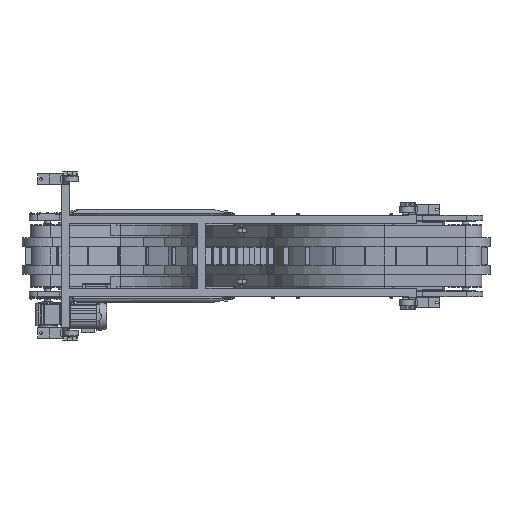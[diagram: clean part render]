
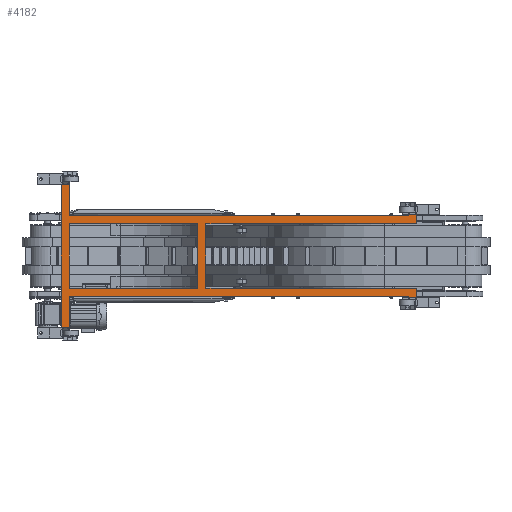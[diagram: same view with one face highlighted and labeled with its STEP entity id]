
A CAD part, front view. The second image highlights one B-rep face of the part: STEP entity #4182.
In plain terms, the highlighted planar face has unit normal (0, -1, 0).
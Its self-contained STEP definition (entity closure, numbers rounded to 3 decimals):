
#4182=ADVANCED_FACE('',(#28933,#28934),#28932,.F.);
#28932=PLANE('',#45991);
#28933=FACE_OUTER_BOUND('',#45992,.T.);
#28934=FACE_BOUND('',#45993,.T.);
#45988=CARTESIAN_POINT('',(1917.167,-2264.082,-410.));
#45989=DIRECTION('',(0.,1.,0.));
#45990=DIRECTION('',(-1.,0.,0.));
#45991=AXIS2_PLACEMENT_3D('',#45988,#45989,#45990);
#45992=EDGE_LOOP('',(#60305,#60306,#60307,#60308,#60309,#60310,#60311,#60312,#60313,#60314,#60315,#60316,#60317,#60318,#60319,#60320));
#45993=EDGE_LOOP('',(#60321,#60322,#60323,#60324));
#60305=ORIENTED_EDGE('',*,*,#68496,.T.);
#60306=ORIENTED_EDGE('',*,*,#68454,.T.);
#60307=ORIENTED_EDGE('',*,*,#68467,.F.);
#60308=ORIENTED_EDGE('',*,*,#68497,.F.);
#60309=ORIENTED_EDGE('',*,*,#68498,.F.);
#60310=ORIENTED_EDGE('',*,*,#68499,.T.);
#60311=ORIENTED_EDGE('',*,*,#68474,.T.);
#60312=ORIENTED_EDGE('',*,*,#68495,.F.);
#60313=ORIENTED_EDGE('',*,*,#68476,.F.);
#60314=ORIENTED_EDGE('',*,*,#68500,.T.);
#60315=ORIENTED_EDGE('',*,*,#68482,.T.);
#60316=ORIENTED_EDGE('',*,*,#68501,.F.);
#60317=ORIENTED_EDGE('',*,*,#68502,.F.);
#60318=ORIENTED_EDGE('',*,*,#68503,.F.);
#60319=ORIENTED_EDGE('',*,*,#68462,.T.);
#60320=ORIENTED_EDGE('',*,*,#68504,.F.);
#60321=ORIENTED_EDGE('',*,*,#68460,.F.);
#60322=ORIENTED_EDGE('',*,*,#68505,.T.);
#60323=ORIENTED_EDGE('',*,*,#68506,.F.);
#60324=ORIENTED_EDGE('',*,*,#68468,.F.);
#68454=EDGE_CURVE('',#109636,#109629,#109637,.T.);
#68460=EDGE_CURVE('',#109671,#109656,#109678,.T.);
#68462=EDGE_CURVE('',#109692,#109684,#109693,.T.);
#68467=EDGE_CURVE('',#109719,#109629,#109726,.T.);
#68468=EDGE_CURVE('',#109656,#109732,#109733,.T.);
#68474=EDGE_CURVE('',#109753,#109767,#109774,.T.);
#68476=EDGE_CURVE('',#109781,#109788,#109789,.T.);
#68482=EDGE_CURVE('',#109809,#109823,#109830,.T.);
#68495=EDGE_CURVE('',#109788,#109767,#109914,.T.);
#68496=EDGE_CURVE('',#109920,#109636,#109921,.T.);
#68497=EDGE_CURVE('',#109927,#109719,#109928,.T.);
#68498=EDGE_CURVE('',#109934,#109927,#109935,.T.);
#68499=EDGE_CURVE('',#109934,#109753,#109941,.T.);
#68500=EDGE_CURVE('',#109781,#109809,#109947,.T.);
#68501=EDGE_CURVE('',#109953,#109823,#109954,.T.);
#68502=EDGE_CURVE('',#109960,#109953,#109961,.T.);
#68503=EDGE_CURVE('',#109692,#109960,#109967,.T.);
#68504=EDGE_CURVE('',#109920,#109684,#109973,.T.);
#68505=EDGE_CURVE('',#109671,#109979,#109980,.T.);
#68506=EDGE_CURVE('',#109732,#109979,#109986,.T.);
#109629=VERTEX_POINT('',#139962);
#109636=VERTEX_POINT('',#139966);
#109637=LINE('',#139967,#139968);
#109656=VERTEX_POINT('',#139977);
#109671=VERTEX_POINT('',#139986);
#109678=LINE('',#139990,#139991);
#109684=VERTEX_POINT('',#139993);
#109692=VERTEX_POINT('',#139998);
#109693=LINE('',#139999,#140000);
#109719=VERTEX_POINT('',#140013);
#109726=LINE('',#140017,#140018);
#109732=VERTEX_POINT('',#140020);
#109733=LINE('',#140021,#140022);
#109753=VERTEX_POINT('',#140032);
#109767=VERTEX_POINT('',#140040);
#109774=LINE('',#140044,#140045);
#109781=VERTEX_POINT('',#140048);
#109788=VERTEX_POINT('',#140052);
#109789=LINE('',#140053,#140054);
#109809=VERTEX_POINT('',#140064);
#109823=VERTEX_POINT('',#140072);
#109830=LINE('',#140076,#140077);
#109914=LINE('',#140121,#140122);
#109920=VERTEX_POINT('',#140124);
#109921=LINE('',#140125,#140126);
#109927=VERTEX_POINT('',#140128);
#109928=LINE('',#140129,#140130);
#109934=VERTEX_POINT('',#140132);
#109935=LINE('',#140133,#140134);
#109941=LINE('',#140136,#140137);
#109947=LINE('',#140139,#140140);
#109953=VERTEX_POINT('',#140142);
#109954=LINE('',#140143,#140144);
#109960=VERTEX_POINT('',#140146);
#109961=LINE('',#140147,#140148);
#109967=LINE('',#140150,#140151);
#109973=LINE('',#140153,#140154);
#109979=VERTEX_POINT('',#140156);
#109980=LINE('',#140157,#140158);
#109986=LINE('',#140160,#140161);
#139962=CARTESIAN_POINT('',(867.167,-2264.082,160.));
#139966=CARTESIAN_POINT('',(867.167,-2264.082,-160.));
#139967=CARTESIAN_POINT('',(867.167,-2264.082,-160.));
#139968=VECTOR('',#139969,320.);
#139969=DIRECTION('',(0.,0.,1.));
#139977=CARTESIAN_POINT('',(827.167,-2264.082,160.));
#139986=CARTESIAN_POINT('',(827.167,-2264.082,-160.));
#139990=CARTESIAN_POINT('',(827.167,-2264.082,-160.));
#139991=VECTOR('',#139992,320.);
#139992=DIRECTION('',(0.,0.,1.));
#139993=CARTESIAN_POINT('',(1907.167,-2264.082,-250.));
#139998=CARTESIAN_POINT('',(1867.167,-2264.082,-250.));
#139999=CARTESIAN_POINT('',(1867.167,-2264.082,-250.));
#140000=VECTOR('',#140001,40.);
#140001=DIRECTION('',(1.,0.,0.));
#140013=CARTESIAN_POINT('',(1907.167,-2264.082,160.));
#140017=CARTESIAN_POINT('',(1907.167,-2264.082,160.));
#140018=VECTOR('',#140019,1040.);
#140019=DIRECTION('',(-1.,0.,0.));
#140020=CARTESIAN_POINT('',(192.167,-2264.082,160.));
#140021=CARTESIAN_POINT('',(827.167,-2264.082,160.));
#140022=VECTOR('',#140023,635.);
#140023=DIRECTION('',(-1.,0.,0.));
#140032=CARTESIAN_POINT('',(1867.167,-2264.082,200.));
#140040=CARTESIAN_POINT('',(192.167,-2264.082,200.));
#140044=CARTESIAN_POINT('',(1867.167,-2264.082,200.));
#140045=VECTOR('',#140046,1675.);
#140046=DIRECTION('',(-1.,0.,0.));
#140048=CARTESIAN_POINT('',(152.167,-2264.082,400.));
#140052=CARTESIAN_POINT('',(192.167,-2264.082,400.));
#140053=CARTESIAN_POINT('',(152.167,-2264.082,400.));
#140054=VECTOR('',#140055,40.);
#140055=DIRECTION('',(1.,0.,0.));
#140064=CARTESIAN_POINT('',(152.167,-2264.082,-400.));
#140072=CARTESIAN_POINT('',(192.167,-2264.082,-400.));
#140076=CARTESIAN_POINT('',(152.167,-2264.082,-400.));
#140077=VECTOR('',#140078,40.);
#140078=DIRECTION('',(1.,0.,0.));
#140121=CARTESIAN_POINT('',(192.167,-2264.082,400.));
#140122=VECTOR('',#140123,200.);
#140123=DIRECTION('',(0.,0.,-1.));
#140124=CARTESIAN_POINT('',(1907.167,-2264.082,-160.));
#140125=CARTESIAN_POINT('',(1907.167,-2264.082,-160.));
#140126=VECTOR('',#140127,1040.);
#140127=DIRECTION('',(-1.,0.,0.));
#140128=CARTESIAN_POINT('',(1907.167,-2264.082,250.));
#140129=CARTESIAN_POINT('',(1907.167,-2264.082,250.));
#140130=VECTOR('',#140131,90.);
#140131=DIRECTION('',(0.,0.,-1.));
#140132=CARTESIAN_POINT('',(1867.167,-2264.082,250.));
#140133=CARTESIAN_POINT('',(1867.167,-2264.082,250.));
#140134=VECTOR('',#140135,40.);
#140135=DIRECTION('',(1.,0.,0.));
#140136=CARTESIAN_POINT('',(1867.167,-2264.082,250.));
#140137=VECTOR('',#140138,50.);
#140138=DIRECTION('',(0.,0.,-1.));
#140139=CARTESIAN_POINT('',(152.167,-2264.082,400.));
#140140=VECTOR('',#140141,800.);
#140141=DIRECTION('',(0.,0.,-1.));
#140142=CARTESIAN_POINT('',(192.167,-2264.082,-200.));
#140143=CARTESIAN_POINT('',(192.167,-2264.082,-200.));
#140144=VECTOR('',#140145,200.);
#140145=DIRECTION('',(0.,0.,-1.));
#140146=CARTESIAN_POINT('',(1867.167,-2264.082,-200.));
#140147=CARTESIAN_POINT('',(1867.167,-2264.082,-200.));
#140148=VECTOR('',#140149,1675.);
#140149=DIRECTION('',(-1.,0.,0.));
#140150=CARTESIAN_POINT('',(1867.167,-2264.082,-250.));
#140151=VECTOR('',#140152,50.);
#140152=DIRECTION('',(0.,0.,1.));
#140153=CARTESIAN_POINT('',(1907.167,-2264.082,-160.));
#140154=VECTOR('',#140155,90.);
#140155=DIRECTION('',(0.,0.,-1.));
#140156=CARTESIAN_POINT('',(192.167,-2264.082,-160.));
#140157=CARTESIAN_POINT('',(827.167,-2264.082,-160.));
#140158=VECTOR('',#140159,635.);
#140159=DIRECTION('',(-1.,0.,0.));
#140160=CARTESIAN_POINT('',(192.167,-2264.082,160.));
#140161=VECTOR('',#140162,320.);
#140162=DIRECTION('',(0.,0.,-1.));
